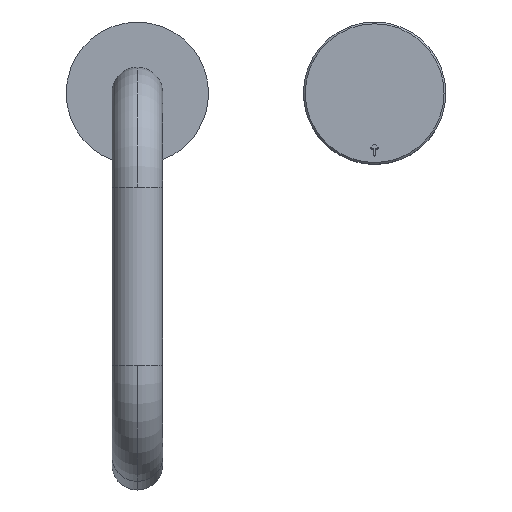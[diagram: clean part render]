
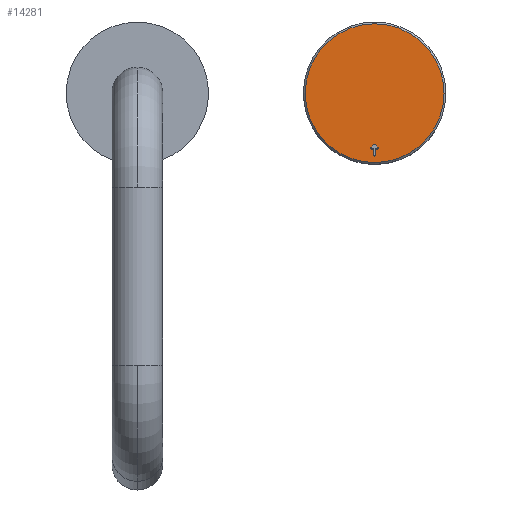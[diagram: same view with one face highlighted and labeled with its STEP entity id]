
A CAD part, top view. The second image highlights one B-rep face of the part: STEP entity #14281.
In plain terms, the highlighted planar face has unit normal (0, 0, 1).
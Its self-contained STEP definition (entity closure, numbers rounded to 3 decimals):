
#12451=CARTESIAN_POINT('',(0.,0.,49.));
#12452=DIRECTION('',(0.,0.,-1.));
#12453=DIRECTION('',(1.,0.,0.));
#12454=AXIS2_PLACEMENT_3D('',#12451,#12452,#12453);
#12456=CARTESIAN_POINT('',(0.,0.,49.));
#12457=DIRECTION('',(0.,0.,-1.));
#12458=DIRECTION('',(-1.,0.,0.));
#12459=AXIS2_PLACEMENT_3D('',#12456,#12457,#12458);
#12461=DIRECTION('',(0.707,-0.707,0.));
#12462=VECTOR('',#12461,0.293);
#12463=CARTESIAN_POINT('',(0.498,-23.216,49.));
#12464=LINE('',#12463,#12462);
#12465=CARTESIAN_POINT('',(1.059,-23.07,49.));
#12466=DIRECTION('',(0.,0.,1.));
#12467=DIRECTION('',(-0.707,-0.707,0.));
#12468=AXIS2_PLACEMENT_3D('',#12465,#12466,#12467);
#12470=CARTESIAN_POINT('',(1.059,-23.07,49.));
#12471=DIRECTION('',(0.,0.,1.));
#12472=DIRECTION('',(1.,0.,0.));
#12473=AXIS2_PLACEMENT_3D('',#12470,#12471,#12472);
#12475=DIRECTION('',(-0.707,0.707,0.));
#12476=VECTOR('',#12475,1.5);
#12477=CARTESIAN_POINT('',(1.412,-22.716,49.));
#12478=LINE('',#12477,#12476);
#12479=CARTESIAN_POINT('',(-0.002,-22.009,49.));
#12480=DIRECTION('',(0.,0.,1.));
#12481=DIRECTION('',(0.707,0.707,0.));
#12482=AXIS2_PLACEMENT_3D('',#12479,#12480,#12481);
#12484=DIRECTION('',(-0.707,-0.707,0.));
#12485=VECTOR('',#12484,1.5);
#12486=CARTESIAN_POINT('',(-0.355,-21.655,49.));
#12487=LINE('',#12486,#12485);
#12488=CARTESIAN_POINT('',(-1.062,-23.07,49.));
#12489=DIRECTION('',(0.,0.,1.));
#12490=DIRECTION('',(-0.707,0.707,0.));
#12491=AXIS2_PLACEMENT_3D('',#12488,#12489,#12490);
#12493=CARTESIAN_POINT('',(-1.062,-23.07,49.));
#12494=DIRECTION('',(0.,0.,1.));
#12495=DIRECTION('',(-1.,0.,0.));
#12496=AXIS2_PLACEMENT_3D('',#12493,#12494,#12495);
#12498=DIRECTION('',(0.707,0.707,0.));
#12499=VECTOR('',#12498,0.293);
#12500=CARTESIAN_POINT('',(-0.709,-23.423,49.));
#12501=LINE('',#12500,#12499);
#12502=DIRECTION('',(0.,-1.,0.));
#12503=VECTOR('',#12502,2.793);
#12504=CARTESIAN_POINT('',(-0.502,-23.216,49.));
#12505=LINE('',#12504,#12503);
#12506=CARTESIAN_POINT('',(-0.002,-26.009,49.));
#12507=DIRECTION('',(0.,0.,1.));
#12508=DIRECTION('',(-1.,0.,0.));
#12509=AXIS2_PLACEMENT_3D('',#12506,#12507,#12508);
#12511=DIRECTION('',(0.,-1.,0.));
#12512=VECTOR('',#12511,2.793);
#12513=CARTESIAN_POINT('',(0.498,-23.216,49.));
#12514=LINE('',#12513,#12512);
#13043=CARTESIAN_POINT('',(-29.25,0.002,49.));
#13044=VERTEX_POINT('',#13043);
#13045=CARTESIAN_POINT('',(29.25,-0.002,49.));
#13046=VERTEX_POINT('',#13045);
#13054=CARTESIAN_POINT('',(0.498,-23.216,49.));
#13055=CARTESIAN_POINT('',(0.498,-26.009,49.));
#13056=VERTEX_POINT('',#13054);
#13057=VERTEX_POINT('',#13055);
#13058=CARTESIAN_POINT('',(0.705,-23.423,49.));
#13059=VERTEX_POINT('',#13058);
#13060=CARTESIAN_POINT('',(1.559,-23.07,49.));
#13061=VERTEX_POINT('',#13060);
#13062=CARTESIAN_POINT('',(1.412,-22.716,49.));
#13063=VERTEX_POINT('',#13062);
#13064=CARTESIAN_POINT('',(0.352,-21.655,49.));
#13065=VERTEX_POINT('',#13064);
#13066=CARTESIAN_POINT('',(-0.355,-21.655,49.));
#13067=VERTEX_POINT('',#13066);
#13068=CARTESIAN_POINT('',(-1.416,-22.716,49.));
#13069=VERTEX_POINT('',#13068);
#13070=CARTESIAN_POINT('',(-1.562,-23.07,49.));
#13071=VERTEX_POINT('',#13070);
#13072=CARTESIAN_POINT('',(-0.709,-23.423,49.));
#13073=VERTEX_POINT('',#13072);
#13074=CARTESIAN_POINT('',(-0.502,-23.216,49.));
#13075=VERTEX_POINT('',#13074);
#13076=CARTESIAN_POINT('',(-0.502,-26.009,49.));
#13077=VERTEX_POINT('',#13076);
#14246=CARTESIAN_POINT('',(0.002,21.35,49.));
#14247=DIRECTION('',(0.,0.,1.));
#14248=DIRECTION('',(1.,0.,0.));
#14249=AXIS2_PLACEMENT_3D('',#14246,#14247,#14248);
#14250=PLANE('',#14249);
#14251=ORIENTED_EDGE('',*,*,#13676,.T.);
#14252=ORIENTED_EDGE('',*,*,#13698,.T.);
#14253=EDGE_LOOP('',(#14251,#14252));
#14254=FACE_OUTER_BOUND('',#14253,.F.);
#14256=ORIENTED_EDGE('',*,*,#14255,.F.);
#14258=ORIENTED_EDGE('',*,*,#14257,.T.);
#14260=ORIENTED_EDGE('',*,*,#14259,.T.);
#14262=ORIENTED_EDGE('',*,*,#14261,.T.);
#14264=ORIENTED_EDGE('',*,*,#14263,.T.);
#14266=ORIENTED_EDGE('',*,*,#14265,.T.);
#14268=ORIENTED_EDGE('',*,*,#14267,.T.);
#14270=ORIENTED_EDGE('',*,*,#14269,.T.);
#14272=ORIENTED_EDGE('',*,*,#14271,.T.);
#14274=ORIENTED_EDGE('',*,*,#14273,.T.);
#14276=ORIENTED_EDGE('',*,*,#14275,.T.);
#14278=ORIENTED_EDGE('',*,*,#14277,.T.);
#14279=EDGE_LOOP('',(#14256,#14258,#14260,#14262,#14264,#14266,#14268,#14270,
#14272,#14274,#14276,#14278));
#14280=FACE_BOUND('',#14279,.F.);
#12455=CIRCLE('',#12454,29.25);
#12460=CIRCLE('',#12459,29.25);
#12469=CIRCLE('',#12468,0.5);
#12474=CIRCLE('',#12473,0.5);
#12483=CIRCLE('',#12482,0.5);
#12492=CIRCLE('',#12491,0.5);
#12497=CIRCLE('',#12496,0.5);
#12510=CIRCLE('',#12509,0.5);
#13676=EDGE_CURVE('',#13046,#13044,#12455,.T.);
#13698=EDGE_CURVE('',#13044,#13046,#12460,.T.);
#14255=EDGE_CURVE('',#13056,#13057,#12514,.T.);
#14257=EDGE_CURVE('',#13056,#13059,#12464,.T.);
#14259=EDGE_CURVE('',#13059,#13061,#12469,.T.);
#14261=EDGE_CURVE('',#13061,#13063,#12474,.T.);
#14263=EDGE_CURVE('',#13063,#13065,#12478,.T.);
#14265=EDGE_CURVE('',#13065,#13067,#12483,.T.);
#14267=EDGE_CURVE('',#13067,#13069,#12487,.T.);
#14269=EDGE_CURVE('',#13069,#13071,#12492,.T.);
#14271=EDGE_CURVE('',#13071,#13073,#12497,.T.);
#14273=EDGE_CURVE('',#13073,#13075,#12501,.T.);
#14275=EDGE_CURVE('',#13075,#13077,#12505,.T.);
#14277=EDGE_CURVE('',#13077,#13057,#12510,.T.);
#14281=ADVANCED_FACE('',(#14254,#14280),#14250,.T.);
